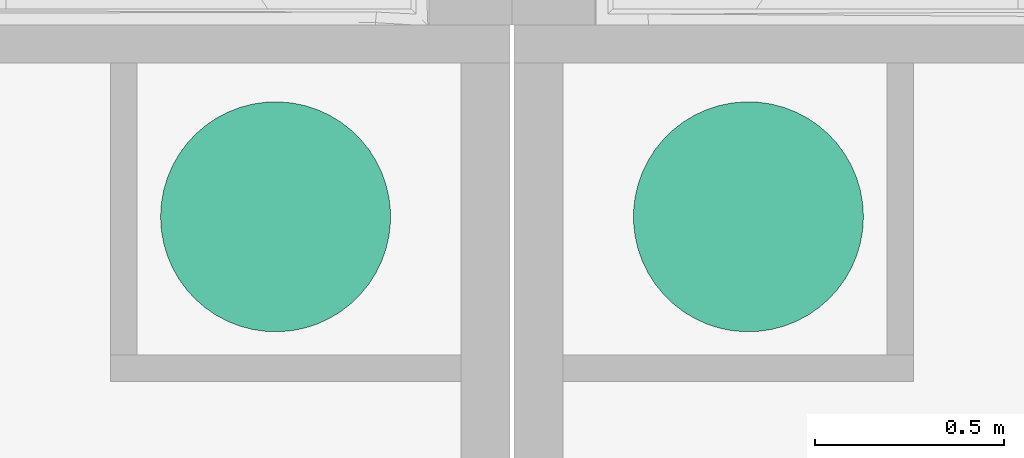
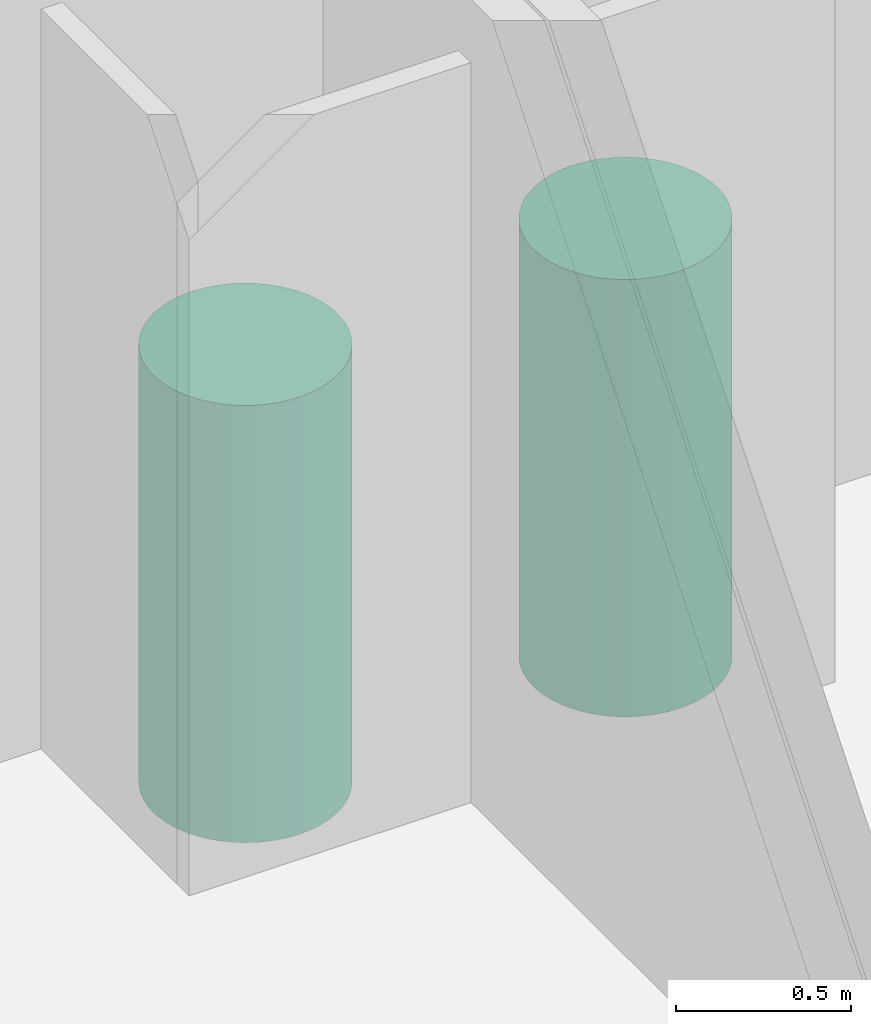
# One storey, part 29 of 30: 2 flow terminals.
"""IFC2X3 building model written with IfcOpenShell, lengths in metres."""

from ifc_helpers import new_model, entity, si_unit, converted_unit, derived_unit, direction, frame, frame_2d, origin, place, context, subcontext, project, spatial, circle, extrude, source, transform, mapped, element, save


model = new_model("IFC2X3")

# Units and contexts
model_context = context("Model", 3, precision=1e-05, world=origin(), true_north=direction((6.12303176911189e-17, 1.0)))
body_context = subcontext(model_context, "Body", "Model", "MODEL_VIEW")
ifc_project = project(units=[si_unit("LENGTHUNIT", "METRE"), si_unit("AREAUNIT", "SQUARE_METRE"), si_unit("VOLUMEUNIT", "CUBIC_METRE"), converted_unit("PLANEANGLEUNIT", "DEGREE", entity("IfcRatioMeasure", 0.0174532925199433), si_unit("PLANEANGLEUNIT", "RADIAN"), dimensions=[0, 0, 0, 0, 0, 0, 0]), si_unit("MASSUNIT", "GRAM", prefix="KILO"), derived_unit("MASSDENSITYUNIT", [(si_unit("MASSUNIT", "GRAM", prefix="KILO"), 1), (si_unit("LENGTHUNIT", "METRE"), -3)]), si_unit("TIMEUNIT", "SECOND"), si_unit("FREQUENCYUNIT", "HERTZ"), si_unit("THERMODYNAMICTEMPERATUREUNIT", "DEGREE_CELSIUS"), derived_unit("THERMALTRANSMITTANCEUNIT", [(si_unit("MASSUNIT", "GRAM", prefix="KILO"), 1), (si_unit("THERMODYNAMICTEMPERATUREUNIT", "KELVIN"), -1), (si_unit("TIMEUNIT", "SECOND"), -3)]), derived_unit("VOLUMETRICFLOWRATEUNIT", [(si_unit("LENGTHUNIT", "METRE"), 3), (si_unit("TIMEUNIT", "SECOND"), -1)]), si_unit("ELECTRICCURRENTUNIT", "AMPERE"), si_unit("ELECTRICVOLTAGEUNIT", "VOLT"), si_unit("POWERUNIT", "WATT"), si_unit("FORCEUNIT", "NEWTON", prefix="KILO"), si_unit("ILLUMINANCEUNIT", "LUX"), si_unit("LUMINOUSFLUXUNIT", "LUMEN"), si_unit("LUMINOUSINTENSITYUNIT", "CANDELA"), derived_unit("USERDEFINED", [(si_unit("MASSUNIT", "GRAM", prefix="KILO"), -1), (si_unit("LENGTHUNIT", "METRE"), -2), (si_unit("TIMEUNIT", "SECOND"), 3), (si_unit("LUMINOUSFLUXUNIT", "LUMEN"), 1)]), derived_unit("LINEARVELOCITYUNIT", [(si_unit("LENGTHUNIT", "METRE"), 1), (si_unit("TIMEUNIT", "SECOND"), -1)]), si_unit("PRESSUREUNIT", "PASCAL"), derived_unit("USERDEFINED", [(si_unit("LENGTHUNIT", "METRE"), -2), (si_unit("MASSUNIT", "GRAM", prefix="KILO"), 1), (si_unit("TIMEUNIT", "SECOND"), -2)])], contexts=[model_context])

# Site, building, storey
site_placement = place(None, origin())
site = spatial("IfcSite", under=ifc_project, at=site_placement, Name="Surface", CompositionType="ELEMENT")
building_placement = place(site_placement, origin())
building = spatial("IfcBuilding", under=site, at=building_placement, CompositionType="ELEMENT")
storey_placement = place(building_placement, origin())
storey = spatial("IfcBuildingStorey", under=building, at=storey_placement, Name="Plan des fondations  Maisons 1 et 2", CompositionType="ELEMENT", Elevation=0.0)

# Flow terminals
shared_shape_1 = source(origin(), body_context, "Body", "SweptSolid", [
    extrude(circle(Radius=0.305, at=frame_2d((2.0605001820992e-17, 4.92716529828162e-16), x_axis=(1.0, 0.0))), origin(), (0.0, 0.0, 1.0), 1.525),
])
flow_terminal_1_placement = place(storey_placement, frame((69.461616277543, 82.0494796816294, 0.0)))
element("IfcFlowTerminal", 1, at=flow_terminal_1_placement, inside=storey, Name="Chauffe eau:Chauffe eau", ObjectType="Chauffe eau:Chauffe eau", context=body_context, shape_type="MappedRepresentation", body=[
    mapped(shared_shape_1, transform((0.0, 0.0, 0.0), scale=1.0)),
])
shared_shape_2 = source(origin(), body_context, "Body", "SweptSolid", [
    extrude(circle(Radius=0.305, at=frame_2d((-9.40594473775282e-18, 1.37312338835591e-15), x_axis=(1.0, 0.0))), origin(), (0.0, 0.0, 1.0), 1.525),
])
flow_terminal_2_placement = place(storey_placement, frame((68.2076364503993, 82.0494796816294, 0.0), z_axis=(0.0, 0.0, 1.0), x_axis=(-1.0, 0.0, 0.0)))
element("IfcFlowTerminal", 2, at=flow_terminal_2_placement, inside=storey, Name="Chauffe eau:Chauffe eau", ObjectType="Chauffe eau:Chauffe eau", context=body_context, shape_type="MappedRepresentation", body=[
    mapped(shared_shape_2, transform((0.0, 0.0, 0.0), scale=1.0)),
])

save(model, "model.ifc")
